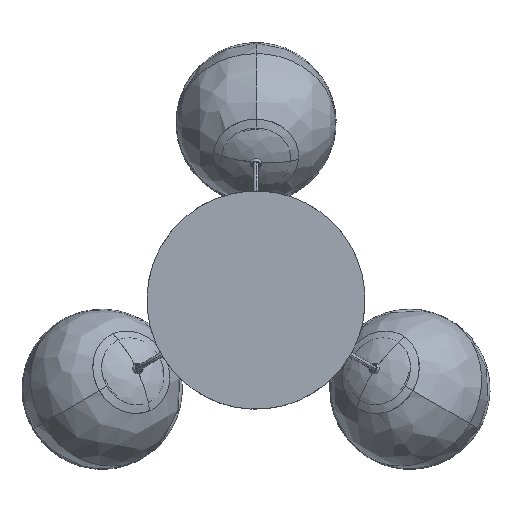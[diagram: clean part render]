
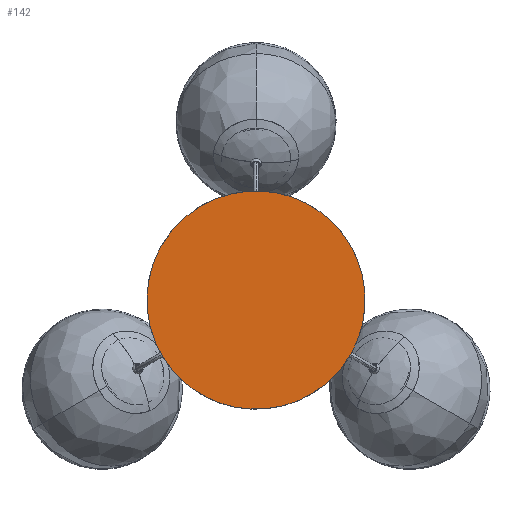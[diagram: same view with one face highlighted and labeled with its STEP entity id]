
A CAD part, top view. The second image highlights one B-rep face of the part: STEP entity #142.
In plain terms, the highlighted planar face has unit normal (0, 0, 1).
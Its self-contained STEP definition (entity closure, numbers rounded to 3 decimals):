
#40=PLANE('',#2381);
#142=ADVANCED_FACE('',(#310),#40,.T.);
#310=FACE_OUTER_BOUND('',#484,.T.);
#484=EDGE_LOOP('',(#814,#815));
#814=ORIENTED_EDGE('',*,*,#1513,.F.);
#815=ORIENTED_EDGE('',*,*,#1403,.F.);
#1403=EDGE_CURVE('',#2056,#2120,#1823,.T.);
#1513=EDGE_CURVE('',#2120,#2056,#1881,.T.);
#1823=(
BOUNDED_CURVE()
B_SPLINE_CURVE(2,(#4679,#4680,#4681,#4682,#4683),.UNSPECIFIED.,.F.,.F.)
B_SPLINE_CURVE_WITH_KNOTS((3,2,3),(0.,215.984,431.969),
 .UNSPECIFIED.)
CURVE()
GEOMETRIC_REPRESENTATION_ITEM()
RATIONAL_B_SPLINE_CURVE((1.,0.707,1.,0.707,1.))
REPRESENTATION_ITEM('')
);
#1881=(
BOUNDED_CURVE()
B_SPLINE_CURVE(2,(#6430,#6431,#6432,#6433,#6434),.UNSPECIFIED.,.F.,.F.)
B_SPLINE_CURVE_WITH_KNOTS((3,2,3),(431.969,647.953,863.938),
 .UNSPECIFIED.)
CURVE()
GEOMETRIC_REPRESENTATION_ITEM()
RATIONAL_B_SPLINE_CURVE((1.,0.707,1.,0.707,1.))
REPRESENTATION_ITEM('')
);
#2056=VERTEX_POINT('',#4385);
#2120=VERTEX_POINT('',#4449);
#2381=AXIS2_PLACEMENT_3D('',#4353,#2409,$);
#2409=DIRECTION('',(0.,0.,1.));
#4353=CARTESIAN_POINT('',(-62.911,234.786,0.));
#4385=CARTESIAN_POINT('',(119.078,-68.75,0.));
#4449=CARTESIAN_POINT('',(-119.078,68.75,0.));
#4679=CARTESIAN_POINT('',(119.078,-68.75,0.));
#4680=CARTESIAN_POINT('',(50.328,-187.828,0.));
#4681=CARTESIAN_POINT('',(-68.75,-119.078,0.));
#4682=CARTESIAN_POINT('',(-187.828,-50.328,0.));
#4683=CARTESIAN_POINT('',(-119.078,68.75,0.));
#6430=CARTESIAN_POINT('',(-119.078,68.75,0.));
#6431=CARTESIAN_POINT('',(-50.328,187.828,0.));
#6432=CARTESIAN_POINT('',(68.75,119.078,0.));
#6433=CARTESIAN_POINT('',(187.828,50.328,0.));
#6434=CARTESIAN_POINT('',(119.078,-68.75,0.));
